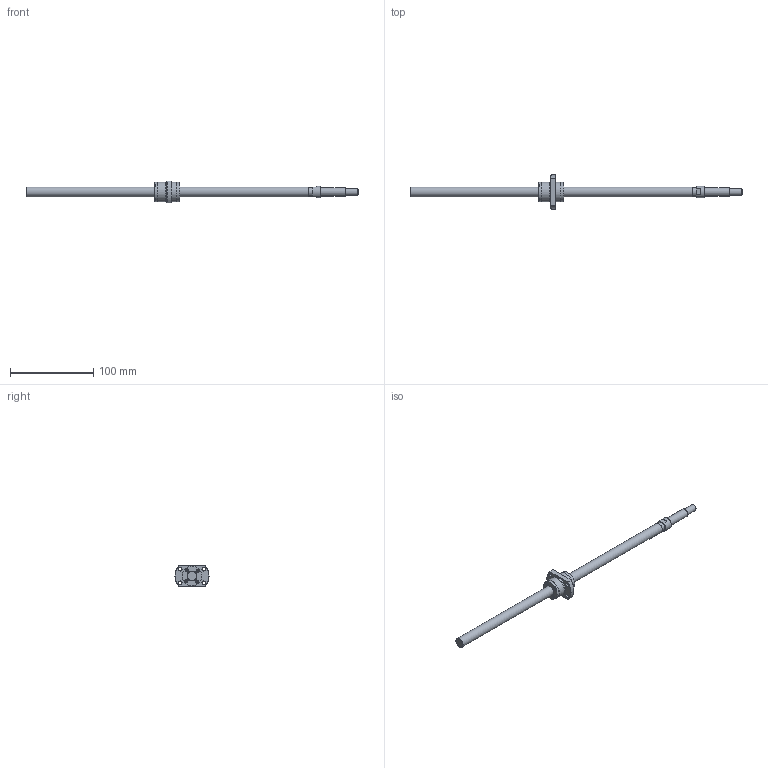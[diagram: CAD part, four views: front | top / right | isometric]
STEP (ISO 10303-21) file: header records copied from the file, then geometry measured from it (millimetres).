
FILE_DESCRIPTION(/* description */ ('STEP AP214'),/* implementation_level */ '2;1');
FILE_NAME(/* name */ 'SG1210-340R400C5A0X(155)',/* time_stamp */ '2026-07-24T15:22:09+02:00',/* author */ ('License CC BY-ND 4.0'),/* organization */ ('CADENAS'),/* preprocessor_version */ 'ST-DEVELOPER v20',/* originating_system */ 'PARTsolutions',/* authorisation */ ' ');
FILE_SCHEMA (('AUTOMOTIVE_DESIGN {1 0 10303 214 3 1 1}'));
Length unit declared in the file: millimetre
Products named in the file (3): SG1210-340R400C5A0X(155); SG1210-340R400C5A_shaft; SG1210 C5_nut
Assembly tree (2 placements, depth 2):
  SG1210-340R400C5A0X(155)
    SG1210-340R400C5A_shaft
    SG1210 C5_nut
Bounding box: 400 x 41 x 26 mm (x, y, z)
Volume: 56262.1 mm3; surface area: 20766.9 mm2
Topology: 2 solids, 2 shells, 99 faces, 227 edges, 149 vertices
Faces by surface type: plane 63, cylinder 25, cone 10, torus 1
Full cylindrical faces by diameter (mm): 3.8 x4, 4.5 x4, 8 x1, 10 x1, 10.46 x1, 12 x2, 14 x1, 23.5 x3, 24 x2
Entity records: 2751 total; most frequent: CARTESIAN_POINT 472, DIRECTION 466, ORIENTED_EDGE 398, EDGE_CURVE 199, AXIS2_PLACEMENT_3D 173, EDGE_LOOP 152, FACE_BOUND 152, VERTEX_POINT 147
